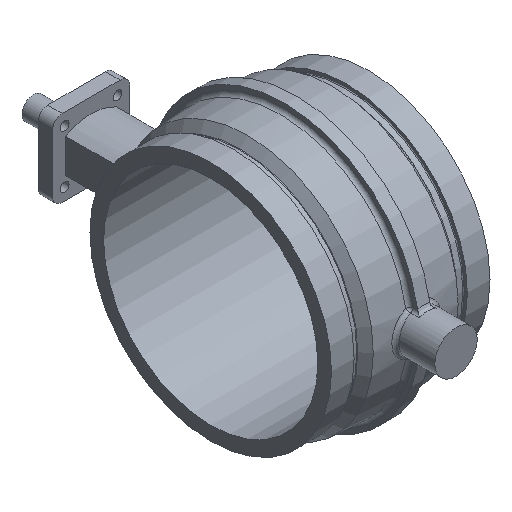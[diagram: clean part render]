
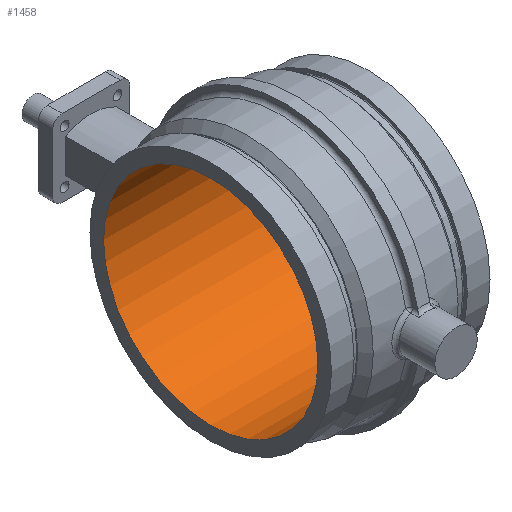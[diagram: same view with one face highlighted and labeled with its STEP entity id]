
A CAD part, isometric view. The second image highlights one B-rep face of the part: STEP entity #1458.
In plain terms, the highlighted cylindrical face has radius 180.213 mm (diameter 360.426 mm), a full revolution.
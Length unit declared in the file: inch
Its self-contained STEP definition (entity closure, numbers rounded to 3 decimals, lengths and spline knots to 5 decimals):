
#175=LINE('',#3121,#228);
#228=VECTOR('',#2035,7.095);
#255=CYLINDRICAL_SURFACE('',#1645,7.095);
#331=FACE_OUTER_BOUND('',#421,.T.);
#421=EDGE_LOOP('',(#1285,#1286,#1287,#1288,#1289,#1290));
#522=CIRCLE('',#1643,7.095);
#523=CIRCLE('',#1644,7.095);
#524=CIRCLE('',#1646,7.095);
#525=CIRCLE('',#1647,7.095);
#661=VERTEX_POINT('',#3115);
#662=VERTEX_POINT('',#3116);
#663=VERTEX_POINT('',#3120);
#664=VERTEX_POINT('',#3122);
#870=EDGE_CURVE('',#661,#662,#522,.T.);
#871=EDGE_CURVE('',#662,#661,#523,.T.);
#872=EDGE_CURVE('',#662,#663,#175,.T.);
#873=EDGE_CURVE('',#664,#663,#524,.T.);
#874=EDGE_CURVE('',#663,#664,#525,.T.);
#1285=ORIENTED_EDGE('',*,*,#870,.T.);
#1286=ORIENTED_EDGE('',*,*,#872,.T.);
#1287=ORIENTED_EDGE('',*,*,#873,.F.);
#1288=ORIENTED_EDGE('',*,*,#874,.F.);
#1289=ORIENTED_EDGE('',*,*,#872,.F.);
#1290=ORIENTED_EDGE('',*,*,#871,.T.);
#1458=ADVANCED_FACE('',(#331),#255,.F.);
#1643=AXIS2_PLACEMENT_3D('',#3117,#2029,#2030);
#1644=AXIS2_PLACEMENT_3D('',#3118,#2031,#2032);
#1645=AXIS2_PLACEMENT_3D('',#3119,#2033,#2034);
#1646=AXIS2_PLACEMENT_3D('',#3123,#2036,#2037);
#1647=AXIS2_PLACEMENT_3D('',#3124,#2038,#2039);
#2029=DIRECTION('center_axis',(1.,0.,0.));
#2030=DIRECTION('ref_axis',(0.,1.,0.));
#2031=DIRECTION('center_axis',(1.,0.,0.));
#2032=DIRECTION('ref_axis',(0.,1.,0.));
#2033=DIRECTION('center_axis',(1.,0.,0.));
#2034=DIRECTION('ref_axis',(0.,1.,0.));
#2035=DIRECTION('',(-1.,0.,0.));
#2036=DIRECTION('center_axis',(1.,0.,0.));
#2037=DIRECTION('ref_axis',(0.,1.,0.));
#2038=DIRECTION('center_axis',(1.,0.,0.));
#2039=DIRECTION('ref_axis',(0.,1.,0.));
#3115=CARTESIAN_POINT('',(5.25,7.095,0.));
#3116=CARTESIAN_POINT('',(5.25,-7.095,0.));
#3117=CARTESIAN_POINT('Origin',(5.25,0.,0.));
#3118=CARTESIAN_POINT('Origin',(5.25,0.,0.));
#3119=CARTESIAN_POINT('Origin',(0.,0.,0.));
#3120=CARTESIAN_POINT('',(-5.25,-7.095,0.));
#3121=CARTESIAN_POINT('',(0.,-7.095,0.));
#3122=CARTESIAN_POINT('',(-5.25,7.095,0.));
#3123=CARTESIAN_POINT('Origin',(-5.25,0.,0.));
#3124=CARTESIAN_POINT('Origin',(-5.25,0.,0.));
